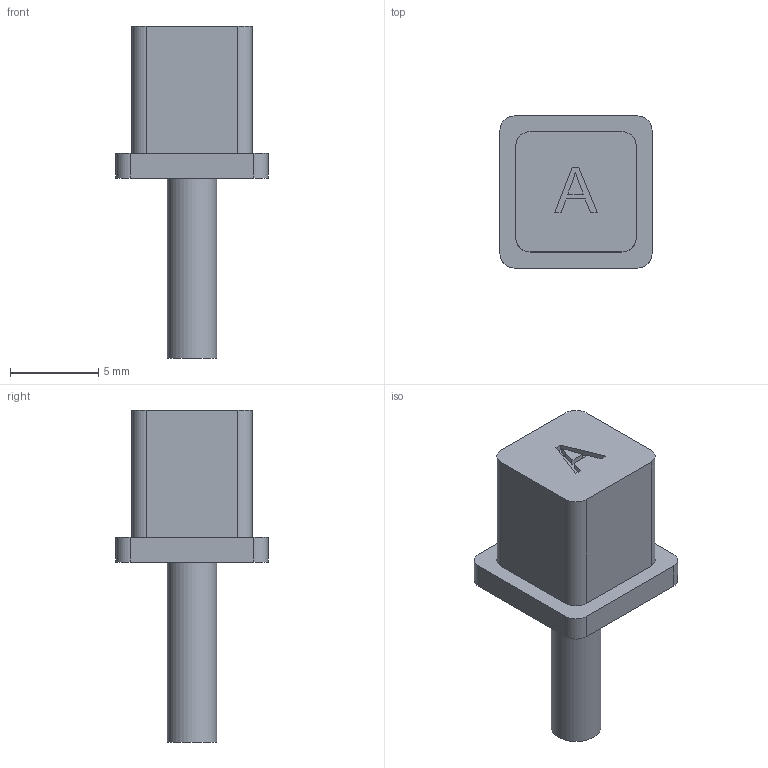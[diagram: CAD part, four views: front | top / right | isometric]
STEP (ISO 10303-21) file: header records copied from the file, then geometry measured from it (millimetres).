
FILE_DESCRIPTION(('Open CASCADE Model'),'2;1');
FILE_NAME('Open CASCADE Shape Model','2026-11-14T12:36:32',('Author'),( 'Open CASCADE'),'Open CASCADE STEP processor 7.9','Open CASCADE 7.9' ,'Unknown');
FILE_SCHEMA(('AUTOMOTIVE_DESIGN { 1 0 10303 214 1 1 1 1 }'));
Length unit declared in the file: millimetre
Products named in the file (1): Open CASCADE STEP translator 7.9 4
Bounding box: 8.6 x 8.6 x 18.77 mm (x, y, z)
Volume: 493.8 mm3; surface area: 472.4 mm2
Topology: 1 solids, 1 shells, 36 faces, 90 edges, 60 vertices
Faces by surface type: plane 25, cylinder 9, extrusion 2
Full cylindrical faces by diameter (mm): 2.8 x1
Entity records: 2279 total; most frequent: CARTESIAN_POINT 485, DIRECTION 319, VECTOR 204, LINE 202, ORIENTED_EDGE 180, PCURVE 180, DEFINITIONAL_REPRESENTATION 180, EDGE_CURVE 90
